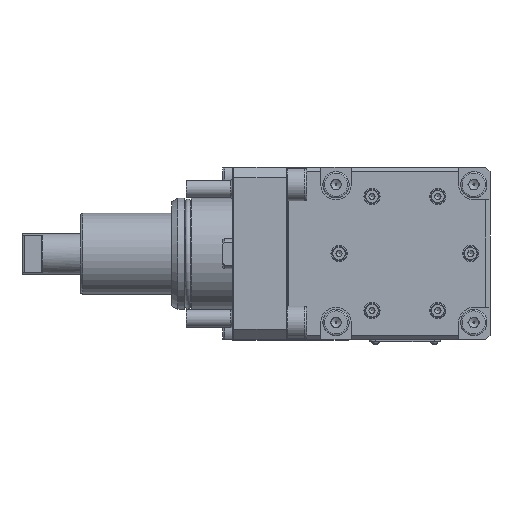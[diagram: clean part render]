
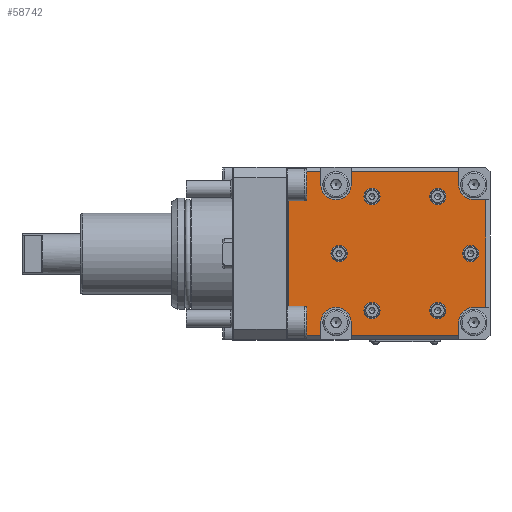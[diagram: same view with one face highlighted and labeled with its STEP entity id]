
A CAD part, top view. The second image highlights one B-rep face of the part: STEP entity #58742.
In plain terms, the highlighted planar face has unit normal (0, 0, 1).
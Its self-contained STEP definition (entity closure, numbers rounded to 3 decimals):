
#24171=VECTOR('',#39135,1.);
#24177=VECTOR('',#39145,1.);
#24179=VECTOR('',#39149,1.);
#24180=VECTOR('',#39150,1.);
#24181=VECTOR('',#39153,1.);
#24182=VECTOR('',#39154,1.);
#24183=VECTOR('',#39155,1.);
#24184=VECTOR('',#39158,1.);
#24185=VECTOR('',#39159,1.);
#24186=VECTOR('',#39160,1.);
#24187=VECTOR('',#39161,1.);
#24188=VECTOR('',#39164,1.);
#24189=VECTOR('',#39165,1.);
#24190=VECTOR('',#39166,1.);
#25543=LINE('',#44051,#24171);
#25549=LINE('',#44063,#24177);
#25551=LINE('',#44068,#24179);
#25552=LINE('',#44070,#24180);
#25553=LINE('',#44074,#24181);
#25554=LINE('',#44076,#24182);
#25555=LINE('',#44078,#24183);
#25556=LINE('',#44081,#24184);
#25557=LINE('',#44083,#24185);
#25558=LINE('',#44085,#24186);
#25559=LINE('',#44087,#24187);
#25560=LINE('',#44091,#24188);
#25561=LINE('',#44093,#24189);
#25562=LINE('',#44094,#24190);
#27002=ORIENTED_EDGE('',*,*,#33954,.F.);
#27003=ORIENTED_EDGE('',*,*,#33955,.F.);
#27004=ORIENTED_EDGE('',*,*,#33956,.F.);
#27005=ORIENTED_EDGE('',*,*,#33957,.F.);
#27006=ORIENTED_EDGE('',*,*,#33958,.F.);
#27007=ORIENTED_EDGE('',*,*,#33959,.F.);
#27008=ORIENTED_EDGE('',*,*,#33960,.F.);
#27009=ORIENTED_EDGE('',*,*,#33961,.F.);
#27010=ORIENTED_EDGE('',*,*,#33952,.F.);
#27011=ORIENTED_EDGE('',*,*,#33946,.F.);
#27012=ORIENTED_EDGE('',*,*,#33943,.F.);
#27013=ORIENTED_EDGE('',*,*,#33962,.F.);
#27014=ORIENTED_EDGE('',*,*,#33963,.F.);
#27015=ORIENTED_EDGE('',*,*,#33964,.F.);
#27016=ORIENTED_EDGE('',*,*,#33965,.F.);
#27017=ORIENTED_EDGE('',*,*,#33966,.F.);
#27018=ORIENTED_EDGE('',*,*,#33967,.F.);
#27019=ORIENTED_EDGE('',*,*,#33968,.F.);
#27020=ORIENTED_EDGE('',*,*,#33969,.F.);
#27021=ORIENTED_EDGE('',*,*,#33970,.F.);
#27022=ORIENTED_EDGE('',*,*,#33971,.F.);
#27023=ORIENTED_EDGE('',*,*,#33972,.F.);
#27024=ORIENTED_EDGE('',*,*,#33973,.F.);
#27025=ORIENTED_EDGE('',*,*,#33974,.F.);
#31579=CIRCLE('',#56369,7.5);
#31580=CIRCLE('',#56374,7.5);
#31581=CIRCLE('',#56375,7.5);
#31582=CIRCLE('',#56376,7.5);
#31583=CIRCLE('',#56377,4.);
#31584=CIRCLE('',#56378,4.);
#31585=CIRCLE('',#56379,4.);
#31586=CIRCLE('',#56380,4.);
#31587=CIRCLE('',#56381,4.);
#31588=CIRCLE('',#56382,4.);
#32305=VERTEX_POINT('',#44042);
#32306=VERTEX_POINT('',#44044);
#32308=VERTEX_POINT('',#44050);
#32312=VERTEX_POINT('',#44062);
#32313=VERTEX_POINT('',#44066);
#32314=VERTEX_POINT('',#44067);
#32315=VERTEX_POINT('',#44069);
#32316=VERTEX_POINT('',#44071);
#32317=VERTEX_POINT('',#44073);
#32318=VERTEX_POINT('',#44075);
#32319=VERTEX_POINT('',#44077);
#32320=VERTEX_POINT('',#44079);
#32321=VERTEX_POINT('',#44082);
#32322=VERTEX_POINT('',#44084);
#32323=VERTEX_POINT('',#44086);
#32324=VERTEX_POINT('',#44088);
#32325=VERTEX_POINT('',#44090);
#32326=VERTEX_POINT('',#44092);
#32327=VERTEX_POINT('',#44095);
#32328=VERTEX_POINT('',#44097);
#32329=VERTEX_POINT('',#44099);
#32330=VERTEX_POINT('',#44101);
#32331=VERTEX_POINT('',#44103);
#32332=VERTEX_POINT('',#44105);
#33943=EDGE_CURVE('',#32306,#32305,#31579,.T.);
#33946=EDGE_CURVE('',#32305,#32308,#25543,.T.);
#33952=EDGE_CURVE('',#32308,#32312,#25549,.T.);
#33954=EDGE_CURVE('',#32313,#32314,#25551,.T.);
#33955=EDGE_CURVE('',#32315,#32313,#25552,.T.);
#33956=EDGE_CURVE('',#32316,#32315,#31580,.T.);
#33957=EDGE_CURVE('',#32317,#32316,#25553,.T.);
#33958=EDGE_CURVE('',#32318,#32317,#25554,.T.);
#33959=EDGE_CURVE('',#32319,#32318,#25555,.T.);
#33960=EDGE_CURVE('',#32320,#32319,#31581,.T.);
#33961=EDGE_CURVE('',#32312,#32320,#25556,.T.);
#33962=EDGE_CURVE('',#32321,#32306,#25557,.T.);
#33963=EDGE_CURVE('',#32322,#32321,#25558,.T.);
#33964=EDGE_CURVE('',#32323,#32322,#25559,.T.);
#33965=EDGE_CURVE('',#32324,#32323,#31582,.T.);
#33966=EDGE_CURVE('',#32325,#32324,#25560,.T.);
#33967=EDGE_CURVE('',#32326,#32325,#25561,.T.);
#33968=EDGE_CURVE('',#32314,#32326,#25562,.T.);
#33969=EDGE_CURVE('',#32327,#32327,#31583,.T.);
#33970=EDGE_CURVE('',#32328,#32328,#31584,.T.);
#33971=EDGE_CURVE('',#32329,#32329,#31585,.T.);
#33972=EDGE_CURVE('',#32330,#32330,#31586,.T.);
#33973=EDGE_CURVE('',#32331,#32331,#31587,.T.);
#33974=EDGE_CURVE('',#32332,#32332,#31588,.T.);
#36233=EDGE_LOOP('',(#27002,#27003,#27004,#27005,#27006,#27007,#27008,#27009,
#27010,#27011,#27012,#27013,#27014,#27015,#27016,#27017,#27018,#27019));
#36234=EDGE_LOOP('',(#27020));
#36235=EDGE_LOOP('',(#27021));
#36236=EDGE_LOOP('',(#27022));
#36237=EDGE_LOOP('',(#27023));
#36238=EDGE_LOOP('',(#27024));
#36239=EDGE_LOOP('',(#27025));
#37606=FACE_BOUND('',#36233,.T.);
#37607=FACE_BOUND('',#36234,.T.);
#37608=FACE_BOUND('',#36235,.T.);
#37609=FACE_BOUND('',#36236,.T.);
#37610=FACE_BOUND('',#36237,.T.);
#37611=FACE_BOUND('',#36238,.T.);
#37612=FACE_BOUND('',#36239,.T.);
#39129=DIRECTION('',(0.,0.,1.));
#39130=DIRECTION('',(0.,7.5,0.));
#39135=DIRECTION('',(6.,0.,0.));
#39145=DIRECTION('',(0.,-53.,0.));
#39147=DIRECTION('',(0.,0.,1.));
#39148=DIRECTION('',(0.,-1.,0.));
#39149=DIRECTION('',(-16.,0.,0.));
#39150=DIRECTION('',(0.,-6.5,0.));
#39151=DIRECTION('',(0.,0.,1.));
#39152=DIRECTION('',(0.,7.5,0.));
#39153=DIRECTION('',(0.,6.5,0.));
#39154=DIRECTION('',(-53.,0.,0.));
#39155=DIRECTION('',(0.,-6.5,0.));
#39156=DIRECTION('',(0.,0.,1.));
#39157=DIRECTION('',(0.,7.5,0.));
#39158=DIRECTION('',(-6.,0.,0.));
#39159=DIRECTION('',(0.,-6.5,0.));
#39160=DIRECTION('',(53.,0.,0.));
#39161=DIRECTION('',(0.,6.5,0.));
#39162=DIRECTION('',(0.,0.,1.));
#39163=DIRECTION('',(0.,7.5,0.));
#39164=DIRECTION('',(0.,-6.5,0.));
#39165=DIRECTION('',(16.,0.,0.));
#39166=DIRECTION('',(0.,81.,0.));
#39167=DIRECTION('',(0.,0.,1.));
#39168=DIRECTION('',(2.,3.464,0.));
#39169=DIRECTION('',(0.,0.,1.));
#39170=DIRECTION('',(4.,0.,0.));
#39171=DIRECTION('',(0.,0.,1.));
#39172=DIRECTION('',(2.,-3.464,0.));
#39173=DIRECTION('',(0.,0.,1.));
#39174=DIRECTION('',(-2.,-3.464,0.));
#39175=DIRECTION('',(0.,0.,1.));
#39176=DIRECTION('',(-4.,0.,0.));
#39177=DIRECTION('',(0.,0.,1.));
#39178=DIRECTION('',(-2.,3.464,0.));
#44042=CARTESIAN_POINT('',(119.,26.5,88.5));
#44044=CARTESIAN_POINT('',(111.5,34.,88.5));
#44045=CARTESIAN_POINT('',(119.,34.,88.5));
#44050=CARTESIAN_POINT('',(125.,26.5,88.5));
#44051=CARTESIAN_POINT('',(119.,26.5,88.5));
#44062=CARTESIAN_POINT('',(125.,-26.5,88.5));
#44063=CARTESIAN_POINT('',(125.,26.5,88.5));
#44065=CARTESIAN_POINT('',(27.,-42.5,88.5));
#44066=CARTESIAN_POINT('',(43.5,-40.5,88.5));
#44067=CARTESIAN_POINT('',(27.5,-40.5,88.5));
#44068=CARTESIAN_POINT('',(43.5,-40.5,88.5));
#44069=CARTESIAN_POINT('',(43.5,-34.,88.5));
#44070=CARTESIAN_POINT('',(43.5,-34.,88.5));
#44071=CARTESIAN_POINT('',(58.5,-34.,88.5));
#44072=CARTESIAN_POINT('',(51.,-34.,88.5));
#44073=CARTESIAN_POINT('',(58.5,-40.5,88.5));
#44074=CARTESIAN_POINT('',(58.5,-40.5,88.5));
#44075=CARTESIAN_POINT('',(111.5,-40.5,88.5));
#44076=CARTESIAN_POINT('',(111.5,-40.5,88.5));
#44077=CARTESIAN_POINT('',(111.5,-34.,88.5));
#44078=CARTESIAN_POINT('',(111.5,-34.,88.5));
#44079=CARTESIAN_POINT('',(119.,-26.5,88.5));
#44080=CARTESIAN_POINT('',(119.,-34.,88.5));
#44081=CARTESIAN_POINT('',(125.,-26.5,88.5));
#44082=CARTESIAN_POINT('',(111.5,40.5,88.5));
#44083=CARTESIAN_POINT('',(111.5,40.5,88.5));
#44084=CARTESIAN_POINT('',(58.5,40.5,88.5));
#44085=CARTESIAN_POINT('',(58.5,40.5,88.5));
#44086=CARTESIAN_POINT('',(58.5,34.,88.5));
#44087=CARTESIAN_POINT('',(58.5,34.,88.5));
#44088=CARTESIAN_POINT('',(43.5,34.,88.5));
#44089=CARTESIAN_POINT('',(51.,34.,88.5));
#44090=CARTESIAN_POINT('',(43.5,40.5,88.5));
#44091=CARTESIAN_POINT('',(43.5,40.5,88.5));
#44092=CARTESIAN_POINT('',(27.5,40.5,88.5));
#44093=CARTESIAN_POINT('',(27.5,40.5,88.5));
#44094=CARTESIAN_POINT('',(27.5,-40.5,88.5));
#44095=CARTESIAN_POINT('',(103.25,31.61,88.5));
#44096=CARTESIAN_POINT('',(101.25,28.146,88.5));
#44097=CARTESIAN_POINT('',(121.5,0.,88.5));
#44098=CARTESIAN_POINT('',(117.5,0.,88.5));
#44099=CARTESIAN_POINT('',(103.25,-31.61,88.5));
#44100=CARTESIAN_POINT('',(101.25,-28.146,88.5));
#44101=CARTESIAN_POINT('',(66.75,-31.61,88.5));
#44102=CARTESIAN_POINT('',(68.75,-28.146,88.5));
#44103=CARTESIAN_POINT('',(48.5,0.,88.5));
#44104=CARTESIAN_POINT('',(52.5,0.,88.5));
#44105=CARTESIAN_POINT('',(66.75,31.61,88.5));
#44106=CARTESIAN_POINT('',(68.75,28.146,88.5));
#56369=AXIS2_PLACEMENT_3D('',#44045,#39129,#39130);
#56373=AXIS2_PLACEMENT_3D('',#44065,#39147,#39148);
#56374=AXIS2_PLACEMENT_3D('',#44072,#39151,#39152);
#56375=AXIS2_PLACEMENT_3D('',#44080,#39156,#39157);
#56376=AXIS2_PLACEMENT_3D('',#44089,#39162,#39163);
#56377=AXIS2_PLACEMENT_3D('',#44096,#39167,#39168);
#56378=AXIS2_PLACEMENT_3D('',#44098,#39169,#39170);
#56379=AXIS2_PLACEMENT_3D('',#44100,#39171,#39172);
#56380=AXIS2_PLACEMENT_3D('',#44102,#39173,#39174);
#56381=AXIS2_PLACEMENT_3D('',#44104,#39175,#39176);
#56382=AXIS2_PLACEMENT_3D('',#44106,#39177,#39178);
#58038=PLANE('',#56373);
#58742=ADVANCED_FACE('',(#37606,#37607,#37608,#37609,#37610,#37611,#37612),
#58038,.T.);
